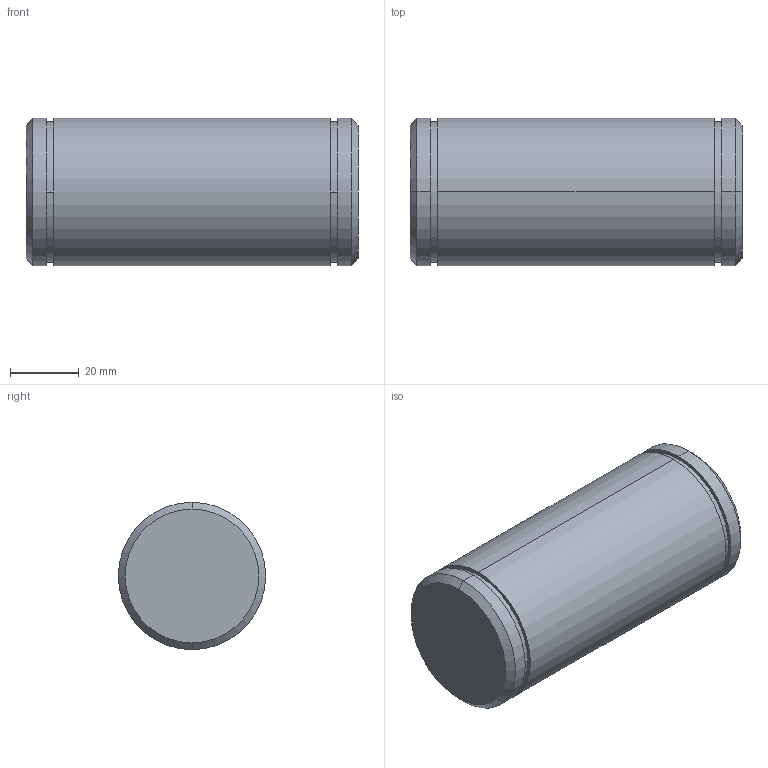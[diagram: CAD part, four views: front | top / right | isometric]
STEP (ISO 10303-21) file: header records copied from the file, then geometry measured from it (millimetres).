
FILE_DESCRIPTION (( 'STEP AP203' ), '1' );
FILE_NAME ('Bolzen Sicherungsring B M42.STEP', '2018-02-22T05:39:46', ( 'install' ), ( 'Hewlett-Packard Company' ), 'SwSTEP 2.0', 'SolidWorks 2017', '' );
FILE_SCHEMA (( 'CONFIG_CONTROL_DESIGN' ));
Length unit declared in the file: millimetre
Products named in the file (1): Bolzen Sicherungsring B M42
Bounding box: 96.8 x 43 x 43 mm (x, y, z)
Volume: 139468.3 mm3; surface area: 16179.8 mm2
Topology: 1 solids, 1 shells, 20 faces, 38 edges, 24 vertices
Faces by surface type: cylinder 10, plane 6, cone 4
Entity records: 591 total; most frequent: DIRECTION 104, CARTESIAN_POINT 83, ORIENTED_EDGE 76, AXIS2_PLACEMENT_3D 45, EDGE_CURVE 38, EDGE_LOOP 24, CIRCLE 24, VERTEX_POINT 24
